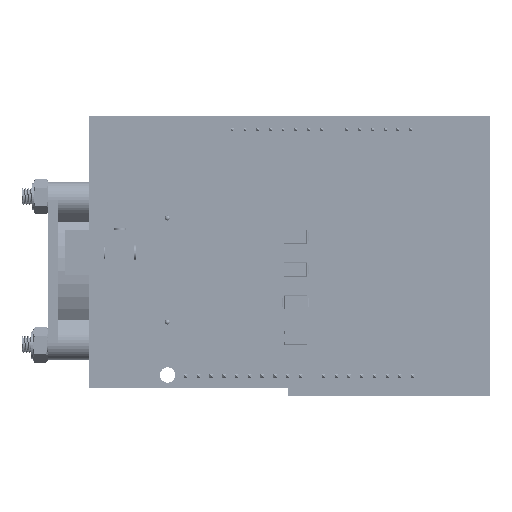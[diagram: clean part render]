
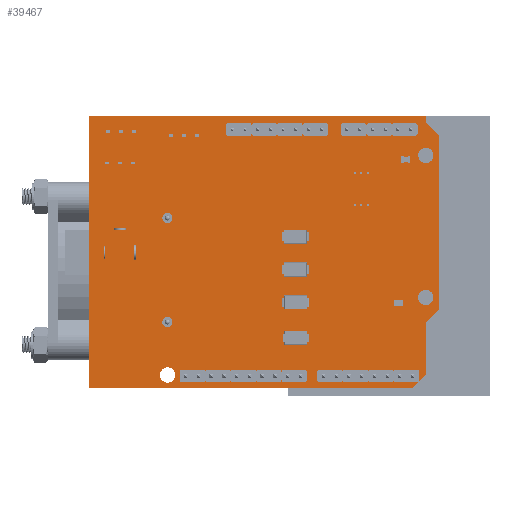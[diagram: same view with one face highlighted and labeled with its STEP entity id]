
A CAD part, front view. The second image highlights one B-rep face of the part: STEP entity #39467.
In plain terms, the highlighted planar face has unit normal (0, -1, 0) as drawn and (0, 0, -1) by its records, which use the part's own axes.
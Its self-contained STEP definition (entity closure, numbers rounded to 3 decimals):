
#1914=CIRCLE('',#42553,1.5);
#1916=CIRCLE('',#42556,1.5);
#1918=CIRCLE('',#42559,1.5);
#3119=FACE_BOUND('',#7072,.T.);
#3120=FACE_BOUND('',#7073,.T.);
#3121=FACE_BOUND('',#7074,.T.);
#4747=FACE_OUTER_BOUND('',#7071,.T.);
#7071=EDGE_LOOP('',(#30912,#30913,#30914,#30915,#30916,#30917,#30918,#30919,
#30920,#30921));
#7072=EDGE_LOOP('',(#30922));
#7073=EDGE_LOOP('',(#30923));
#7074=EDGE_LOOP('',(#30924));
#9904=LINE('',#77741,#14100);
#9907=LINE('',#77747,#14103);
#9910=LINE('',#77753,#14106);
#9913=LINE('',#77759,#14109);
#9916=LINE('',#77765,#14112);
#9919=LINE('',#77771,#14115);
#9922=LINE('',#77777,#14118);
#9925=LINE('',#77783,#14121);
#9928=LINE('',#77789,#14124);
#9930=LINE('',#77792,#14126);
#14100=VECTOR('',#48469,1.);
#14103=VECTOR('',#48474,1.);
#14106=VECTOR('',#48479,1.);
#14109=VECTOR('',#48484,1.);
#14112=VECTOR('',#48489,1.);
#14115=VECTOR('',#48494,1.);
#14118=VECTOR('',#48499,1.);
#14121=VECTOR('',#48504,1.);
#14124=VECTOR('',#48509,1.);
#14126=VECTOR('',#48513,1.);
#18443=VERTEX_POINT('',#77718);
#18445=VERTEX_POINT('',#77724);
#18447=VERTEX_POINT('',#77730);
#18449=VERTEX_POINT('',#77735);
#18451=VERTEX_POINT('',#77739);
#18453=VERTEX_POINT('',#77745);
#18455=VERTEX_POINT('',#77751);
#18457=VERTEX_POINT('',#77757);
#18459=VERTEX_POINT('',#77763);
#18461=VERTEX_POINT('',#77769);
#18463=VERTEX_POINT('',#77775);
#18465=VERTEX_POINT('',#77781);
#18467=VERTEX_POINT('',#77787);
#22853=EDGE_CURVE('',#18443,#18443,#1914,.T.);
#22856=EDGE_CURVE('',#18445,#18445,#1916,.T.);
#22859=EDGE_CURVE('',#18447,#18447,#1918,.T.);
#22863=EDGE_CURVE('',#18449,#18451,#9904,.T.);
#22866=EDGE_CURVE('',#18451,#18453,#9907,.T.);
#22869=EDGE_CURVE('',#18453,#18455,#9910,.T.);
#22872=EDGE_CURVE('',#18455,#18457,#9913,.T.);
#22875=EDGE_CURVE('',#18457,#18459,#9916,.T.);
#22878=EDGE_CURVE('',#18459,#18461,#9919,.T.);
#22881=EDGE_CURVE('',#18461,#18463,#9922,.T.);
#22884=EDGE_CURVE('',#18463,#18465,#9925,.T.);
#22887=EDGE_CURVE('',#18465,#18467,#9928,.T.);
#22889=EDGE_CURVE('',#18467,#18449,#9930,.T.);
#30912=ORIENTED_EDGE('',*,*,#22863,.T.);
#30913=ORIENTED_EDGE('',*,*,#22866,.T.);
#30914=ORIENTED_EDGE('',*,*,#22869,.T.);
#30915=ORIENTED_EDGE('',*,*,#22872,.T.);
#30916=ORIENTED_EDGE('',*,*,#22875,.T.);
#30917=ORIENTED_EDGE('',*,*,#22878,.T.);
#30918=ORIENTED_EDGE('',*,*,#22881,.T.);
#30919=ORIENTED_EDGE('',*,*,#22884,.T.);
#30920=ORIENTED_EDGE('',*,*,#22887,.T.);
#30921=ORIENTED_EDGE('',*,*,#22889,.T.);
#30922=ORIENTED_EDGE('',*,*,#22853,.T.);
#30923=ORIENTED_EDGE('',*,*,#22856,.T.);
#30924=ORIENTED_EDGE('',*,*,#22859,.T.);
#37426=PLANE('',#42571);
#39467=ADVANCED_FACE('',(#4747,#3119,#3120,#3121),#37426,.F.);
#42553=AXIS2_PLACEMENT_3D('',#77720,#48448,#48449);
#42556=AXIS2_PLACEMENT_3D('',#77726,#48455,#48456);
#42559=AXIS2_PLACEMENT_3D('',#77732,#48462,#48463);
#42571=AXIS2_PLACEMENT_3D('',#77794,#48516,#48517);
#48448=DIRECTION('center_axis',(0.,0.,1.));
#48449=DIRECTION('ref_axis',(1.,0.,0.));
#48455=DIRECTION('center_axis',(0.,0.,1.));
#48456=DIRECTION('ref_axis',(1.,0.,0.));
#48462=DIRECTION('center_axis',(0.,0.,1.));
#48463=DIRECTION('ref_axis',(1.,0.,0.));
#48469=DIRECTION('',(1.,0.,0.));
#48474=DIRECTION('',(0.707,-0.707,0.));
#48479=DIRECTION('',(0.,-1.,0.));
#48484=DIRECTION('',(0.707,-0.707,0.));
#48489=DIRECTION('',(0.,-1.,0.));
#48494=DIRECTION('',(-0.707,-0.707,0.));
#48499=DIRECTION('',(0.,-1.,0.));
#48504=DIRECTION('',(-1.,0.,0.));
#48509=DIRECTION('',(0.,1.,0.));
#48513=DIRECTION('',(0.,1.,0.));
#48516=DIRECTION('center_axis',(0.,0.,1.));
#48517=DIRECTION('ref_axis',(1.,0.,0.));
#77718=CARTESIAN_POINT('',(64.524,-45.597,-1.59));
#77720=CARTESIAN_POINT('Origin',(66.024,-45.597,-1.59));
#77724=CARTESIAN_POINT('',(64.497,-17.727,-1.59));
#77726=CARTESIAN_POINT('Origin',(65.997,-17.727,-1.59));
#77730=CARTESIAN_POINT('',(13.864,-2.504,-1.59));
#77732=CARTESIAN_POINT('Origin',(15.364,-2.504,-1.59));
#77735=CARTESIAN_POINT('',(0.,0.,-1.59));
#77739=CARTESIAN_POINT('',(63.493,0.,-1.59));
#77741=CARTESIAN_POINT('',(0.,0.,-1.59));
#77745=CARTESIAN_POINT('',(66.033,-2.54,-1.59));
#77747=CARTESIAN_POINT('',(63.493,0.,-1.59));
#77751=CARTESIAN_POINT('',(66.033,-12.699,-1.59));
#77753=CARTESIAN_POINT('',(66.033,-2.54,-1.59));
#77757=CARTESIAN_POINT('',(68.573,-15.238,-1.59));
#77759=CARTESIAN_POINT('',(66.033,-12.699,-1.59));
#77763=CARTESIAN_POINT('',(68.573,-49.525,-1.59));
#77765=CARTESIAN_POINT('',(68.573,-15.238,-1.59));
#77769=CARTESIAN_POINT('',(66.033,-52.065,-1.59));
#77771=CARTESIAN_POINT('',(68.573,-49.525,-1.59));
#77775=CARTESIAN_POINT('',(66.033,-53.334,-1.59));
#77777=CARTESIAN_POINT('',(66.033,-52.065,-1.59));
#77781=CARTESIAN_POINT('',(0.,-53.334,-1.59));
#77783=CARTESIAN_POINT('',(66.033,-53.334,-1.59));
#77787=CARTESIAN_POINT('',(0.,-52.699,-1.59));
#77789=CARTESIAN_POINT('',(0.,-53.334,-1.59));
#77792=CARTESIAN_POINT('',(0.,-52.699,-1.59));
#77794=CARTESIAN_POINT('Origin',(0.,0.,-1.59));
